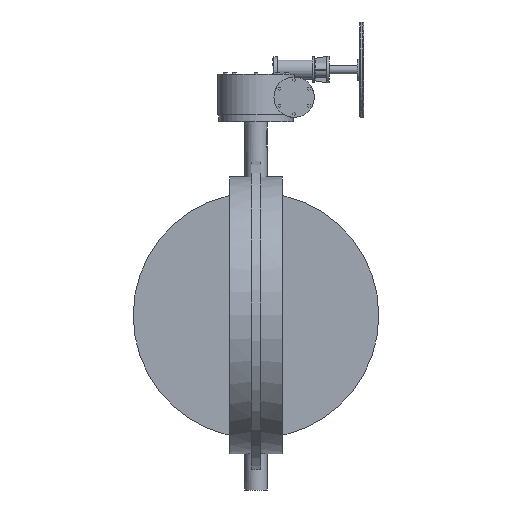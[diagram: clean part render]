
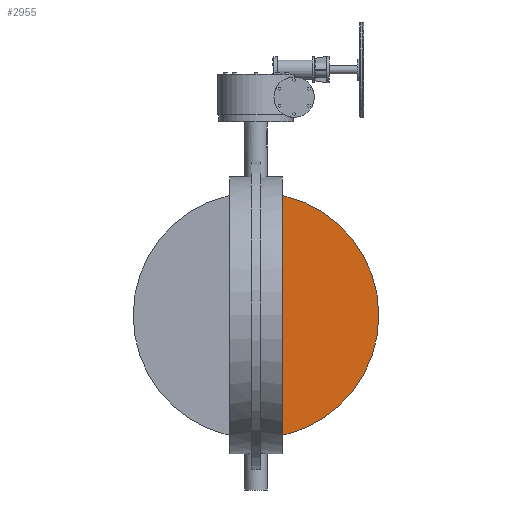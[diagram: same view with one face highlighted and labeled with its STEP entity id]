
A CAD part, front view. The second image highlights one B-rep face of the part: STEP entity #2955.
In plain terms, the highlighted planar face has unit normal (0, -1, 0).
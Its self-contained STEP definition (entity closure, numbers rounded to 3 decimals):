
#2955=ADVANCED_FACE('',(#8866),#8868,.T.);
#8866=FACE_BOUND('',#8867,.T.);
#8867=EDGE_LOOP('',(#12618,#12619));
#8868=PLANE('',#8869);
#8869=AXIS2_PLACEMENT_3D('',#8870,#8871,#8872);
#8870=CARTESIAN_POINT('',(0.,-10.,0.));
#8871=DIRECTION('',(0.,-1.,0.));
#8872=DIRECTION('',(0.,0.,1.));
#12618=ORIENTED_EDGE('',*,*,#14770,.T.);
#12619=ORIENTED_EDGE('',*,*,#14816,.T.);
#14770=EDGE_CURVE('',#16808,#16805,#16809,.T.);
#14816=EDGE_CURVE('',#16805,#16808,#16898,.T.);
#16805=VERTEX_POINT('',#24018);
#16808=VERTEX_POINT('',#24055);
#16809=LINE('',#24056,#24057);
#16898=CIRCLE('',#24336,580.3);
#24018=CARTESIAN_POINT('',(41.307,-10.,-578.828));
#24055=CARTESIAN_POINT('',(41.307,-10.,578.828));
#24056=CARTESIAN_POINT('',(41.307,-10.,578.828));
#24057=VECTOR('',#24058,1.);
#24058=DIRECTION('',(0.,0.,-1.));
#24336=AXIS2_PLACEMENT_3D('',#24337,#24338,#24339);
#24337=CARTESIAN_POINT('',(0.,-10.,0.));
#24338=DIRECTION('',(0.,-1.,0.));
#24339=DIRECTION('',(0.071,0.,-0.997));
